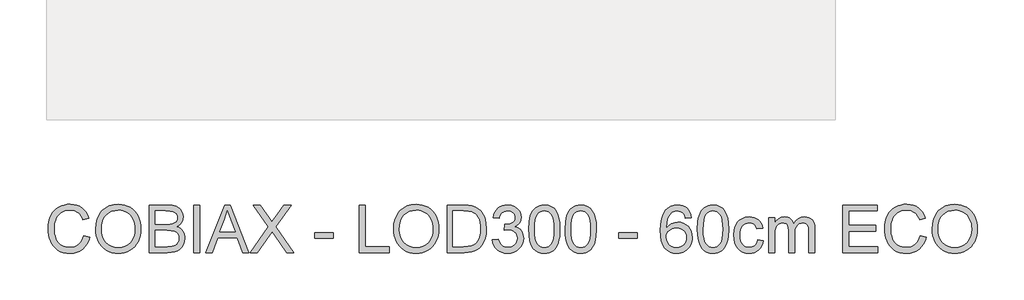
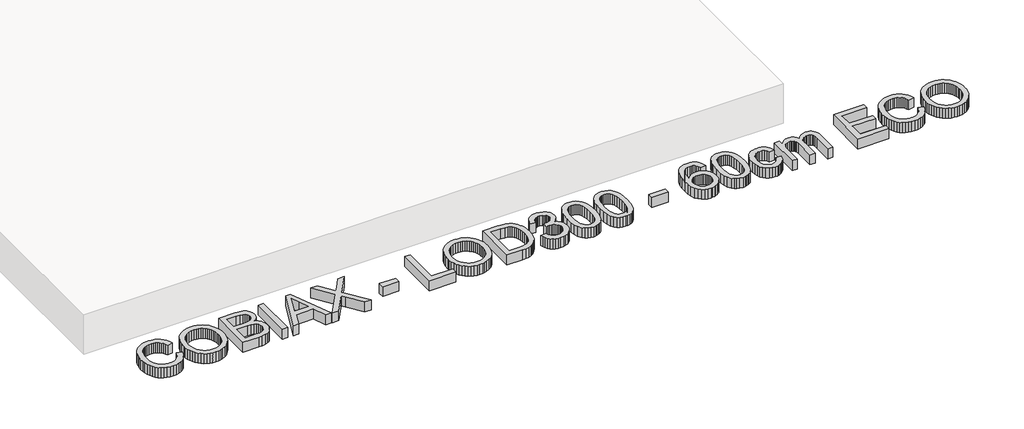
# One storey, part 9 of 18: 1 proxy.
"""IFC4 building model written with IfcOpenShell, lengths in millimetres."""

import ifcopenshell
import ifcopenshell.guid

model = None  # the IFC model being written
_history = None  # IfcOwnerHistory: only IFC2X3 demands one
_inside = {}  # id of a spatial element -> (the spatial element, [elements in it])
_under = {}  # id of a project, library or spatial element -> (it, [spatial elements below it])
_declared = {}  # id of a project -> (the project, [libraries it declares])
_typed = {}  # id of a type object -> (the type object, [elements of that type])
_made_of = {}  # id of a material, layer set ... -> (it, [elements and type objects made of it])


def new_model(schema):
    """Start an empty IFC model of exactly this schema.

    Asked for "IFC4X3", IfcOpenShell would pick the latest addendum, in which some entities
    have other attributes; the version numbers below select the first issue.
    IFC2X3 requires an IfcOwnerHistory on every rooted entity: one is made here for all.
    """
    global model, _history
    if schema == "IFC4X3":
        model = ifcopenshell.file(schema_version=(4, 3, 0, 0))
    else:
        model = ifcopenshell.file(schema=schema)
    _inside.clear()
    _under.clear()
    _declared.clear()
    _typed.clear()
    _made_of.clear()
    _history = None
    if model.schema == "IFC2X3":
        org = make("IfcOrganization", Name="unknown")
        user = make(
            "IfcPersonAndOrganization",
            ThePerson=make("IfcPerson", FamilyName="unknown"),
            TheOrganization=org,
        )
        app = make(
            "IfcApplication",
            ApplicationDeveloper=org,
            Version="unknown",
            ApplicationFullName="unknown",
            ApplicationIdentifier="unknown",
        )
        _history = make(
            "IfcOwnerHistory",
            OwningUser=user,
            OwningApplication=app,
            ChangeAction="ADDED",
            CreationDate=0,
        )
    return model


def make(cls, **values):
    """One entity of the class cls with the attributes given. An attribute that is None is left unset."""
    return model.create_entity(
        cls, **{name: value for name, value in values.items() if value is not None}
    )


def rooted(cls, **values):
    """An entity with a GlobalId (a new one), such as an element, a storey or a relation."""
    return make(cls, GlobalId=ifcopenshell.guid.new(), OwnerHistory=_history, **values)


def si_unit(unit_type, name, prefix=None):
    """IfcSIUnit, for example si_unit("LENGTHUNIT", "METRE", prefix="MILLI")."""
    return make("IfcSIUnit", UnitType=unit_type, Prefix=prefix, Name=name)


def assignment(units):
    """IfcUnitAssignment: the units of a project."""
    return None if units is None else make("IfcUnitAssignment", Units=units)


def point(xyz):
    """IfcCartesianPoint."""
    return None if xyz is None else make("IfcCartesianPoint", Coordinates=xyz)


def direction(xyz):
    """IfcDirection."""
    return None if xyz is None else make("IfcDirection", DirectionRatios=xyz)


def frame(location, z_axis=None, x_axis=None):
    """IfcAxis2Placement3D, a coordinate frame: its origin and axes. An axis left out is left unset."""
    return make(
        "IfcAxis2Placement3D",
        Location=point(location),
        Axis=direction(z_axis),
        RefDirection=direction(x_axis),
    )


def origin():
    """The frame at (0, 0, 0) with its axes left unset."""
    return frame((0.0, 0.0, 0.0))


def origin_with_axes():
    """The frame at (0, 0, 0) with the z axis (0, 0, 1) and the x axis (1, 0, 0) written out."""
    return frame((0.0, 0.0, 0.0), z_axis=(0.0, 0.0, 1.0), x_axis=(1.0, 0.0, 0.0))


def place(relative_to, where):
    """IfcLocalPlacement: puts the frame where relative to a parent placement (None: the world)."""
    return make(
        "IfcLocalPlacement", PlacementRelTo=relative_to, RelativePlacement=where
    )


def context(
    kind, dimensions, precision=None, world=None, true_north=None, identifier=None
):
    """IfcGeometricRepresentationContext, for example the 3D "Model" context."""
    return make(
        "IfcGeometricRepresentationContext",
        ContextIdentifier=identifier,
        ContextType=kind,
        CoordinateSpaceDimension=dimensions,
        Precision=precision,
        WorldCoordinateSystem=world,
        TrueNorth=true_north,
    )


def project(units=None, contexts=None):
    """IfcProject with its units and contexts."""
    return rooted(
        "IfcProject",
        Name="project",
        RepresentationContexts=contexts,
        UnitsInContext=assignment(units),
    )


def spatial(cls, under=None, at=None, **own):
    """A site, building, storey or space (cls), placed at a placement, below another one or the project."""
    s = rooted(cls, ObjectPlacement=at, **own)
    if under is not None:
        _under.setdefault(under.id(), (under, []))[1].append(s)
    return s


def polyline(points):
    """IfcPolyline through the points."""
    return make("IfcPolyline", Points=[point(p) for p in points])


def outline(outer, holes=None, kind="AREA"):
    """IfcArbitraryClosedProfileDef: a profile drawn as a closed curve; with holes, ...WithVoids."""
    if holes is None:
        return make("IfcArbitraryClosedProfileDef", ProfileType=kind, OuterCurve=outer)
    return make(
        "IfcArbitraryProfileDefWithVoids",
        ProfileType=kind,
        OuterCurve=outer,
        InnerCurves=holes,
    )


def extrude(swept, where, along, depth):
    """IfcExtrudedAreaSolid: the profile swept, set in the frame where, extruded along a direction by depth."""
    return make(
        "IfcExtrudedAreaSolid",
        SweptArea=swept,
        Position=where,
        ExtrudedDirection=direction(along),
        Depth=depth,
    )


def shape(context_of_items, identifier, shape_type, items):
    """IfcShapeRepresentation: the items that make up one representation, for example the "Body"."""
    return make(
        "IfcShapeRepresentation",
        ContextOfItems=context_of_items,
        RepresentationIdentifier=identifier,
        RepresentationType=shape_type,
        Items=items,
    )


def made_of(thing, what):
    """Note that an element or type object is made of a material, layer set ...; save() writes the relation."""
    if what is not None:
        _made_of.setdefault(what.id(), (what, []))[1].append(thing)
    return thing


def element(
    cls,
    number,
    at=None,
    inside=None,
    cuts=None,
    type_object=None,
    material=None,
    context=None,
    identifier="Body",
    shape_type=None,
    held_by="IfcProductDefinitionShape",
    body=None,
    shapes=None,
    **own,
):
    """One element of the class cls, such as IfcWall. Its Tag is "e" and its number.

    at: its placement. inside: the storey or other place that contains it. cuts: it is an
    opening in that element (IfcRelVoidsElement). A single representation is given by context,
    identifier, shape_type and body (its items); several are given by shapes. held_by: the class
    of the entity that holds the representations. save() writes the other relations.
    """
    e = rooted(cls, Tag="e%d" % number, ObjectPlacement=at, **own)
    if body is not None:
        shapes = [shape(context, identifier, shape_type, body)]
    if shapes is not None:
        e.Representation = make(held_by, Representations=shapes)
    if inside is not None:
        _inside.setdefault(inside.id(), (inside, []))[1].append(e)
    if cuts is not None:
        rooted(
            "IfcRelVoidsElement", RelatingBuildingElement=cuts, RelatedOpeningElement=e
        )
    if type_object is not None:
        _typed.setdefault(type_object.id(), (type_object, []))[1].append(e)
    return made_of(e, material)


def aggregate(whole, parts):
    """IfcRelAggregates: a whole, such as a stair, and the parts it consists of."""
    return rooted("IfcRelAggregates", RelatingObject=whole, RelatedObjects=parts)


def save(model, path):
    """Write the relations noted so far, then the file.

    IfcRelAggregates (storeys below a building ...), IfcRelContainedInSpatialStructure (elements
    in a storey), IfcRelDefinesByType, IfcRelAssociatesMaterial and IfcRelDeclares: one each for
    every whole, place, type object, material and project.
    """
    for whole, parts in _under.values():
        aggregate(whole, parts)
    for where, things in _inside.values():
        rooted(
            "IfcRelContainedInSpatialStructure",
            RelatedElements=things,
            RelatingStructure=where,
        )
    for kind, things in _typed.values():
        rooted("IfcRelDefinesByType", RelatedObjects=things, RelatingType=kind)
    for what, things in _made_of.values():
        rooted("IfcRelAssociatesMaterial", RelatedObjects=things, RelatingMaterial=what)
    for by, libraries in _declared.values():
        rooted("IfcRelDeclares", RelatingContext=by, RelatedDefinitions=libraries)
    model.write(path)


model = new_model("IFC4")

# Units and contexts
model_context = context("Model", 3, world=origin())
ifc_project = project(units=[si_unit("LENGTHUNIT", "METRE", prefix="MILLI")], contexts=[model_context])

# Site, building, storey
site = spatial("IfcSite", under=ifc_project)
building = spatial("IfcBuilding", under=site)
storey = spatial("IfcBuildingStorey", under=building, Name="COBIAX Slabs", Elevation=0.0)

# Proxy
placement = place(None, origin())
element("IfcBuildingElementProxy", 1, Name="600mm Arial", ObjectType="600mm Arial", at=placement, inside=storey, context=model_context, shape_type="SweptSolid", body=[
    extrude(outline(polyline([(9798.2153953, -62620.9127725), (9873.5576279, -62640.3369419), (9858.64921, -62687.1913125), (9838.7927794, -62728.13198), (9813.9883358, -62763.1589445), (9784.2358795, -62792.2722059), (9750.2067949, -62815.1590645), (9712.5724668, -62831.5068207), (9671.3328952, -62841.3154744), (9626.4880799, -62844.5850256), (9580.5442173, -62842.1110192), (9539.097712, -62834.6889999), (9502.1485641, -62822.3189678), (9469.6967736, -62805.0009229), (9441.2962836, -62782.9923826), (9416.5010371, -62756.5508642), (9395.3110342, -62725.6763677), (9377.7262748, -62690.3688932), (9363.9169044, -62652.155151), (9354.0530684, -62612.5618512), (9348.1347668, -62571.588994), (9346.1619996, -62529.2365793), (9348.3922842, -62483.7939559), (9355.083138, -62441.3495707), (9366.234561, -62401.9034238), (9381.8465531, -62365.4555151), (9401.5696266, -62332.6082514), (9425.0542935, -62303.9640396), (9452.3005538, -62279.5228795), (9483.3084074, -62259.2847713), (9517.0247923, -62243.4152617), (9552.3966461, -62232.0798977), (9589.4239689, -62225.2786793), (9628.1067607, -62223.0116065), (9671.1995379, -62225.9454655), (9710.7146627, -62234.7470422), (9746.6521351, -62249.4163368), (9779.0119551, -62269.9533491), (9807.2606938, -62295.8154534), (9830.8649224, -62326.4600236), (9849.8246407, -62361.8870597), (9864.1398488, -62402.0965618), (9788.7976162, -62420.0492032), (9776.9334219, -62390.420907), (9762.6779946, -62365.1060272), (9746.0313343, -62344.1045638), (9726.993441, -62327.4165168), (9705.4539502, -62314.7015953), (9681.3024972, -62305.6195086), (9654.5390821, -62300.1702565), (9625.1637048, -62298.3538392), (9591.3645465, -62300.3679931), (9560.4532618, -62306.4104549), (9532.4298508, -62316.4812245), (9507.2943135, -62330.5803019), (9485.3639481, -62348.0730908), (9466.9560527, -62368.3249946), (9452.0706275, -62391.3360134), (9440.7076724, -62417.1061472), (9426.3050923, -62472.2516583), (9421.5042322, -62529.0894265), (9427.1880091, -62598.6927), (9434.2927301, -62629.9626696), (9444.2393395, -62658.8781944), (9457.1887858, -62684.8644589), (9473.3020171, -62707.3466473), (9492.5790337, -62726.3247597), (9515.0198354, -62741.7987961), (9539.5345719, -62753.8055448), (9565.0333926, -62762.3817938), (9591.5162978, -62767.5275432), (9618.9832872, -62769.242793), (9651.7385804, -62766.9067423), (9681.8727143, -62759.8985903), (9709.385689, -62748.218337), (9734.2775045, -62731.8659823), (9755.9595496, -62710.9151027), (9773.8432131, -62685.4392745), (9787.928495, -62655.4384978), (9798.2153953, -62620.9127725)])), origin_with_axes(), (0.0, 0.0, 1.0), 150.0),
    extrude(outline(polyline([(9948.8998605, -62541.7445672), (9953.9214497, -62471.0468447), (9968.9862175, -62408.4609203), (9994.0941636, -62353.9867939), (10010.4143286, -62329.7916549), (10029.2452883, -62307.6244654), (10072.3334669, -62270.6063397), (10121.2525753, -62244.1648213), (10176.0026132, -62228.2999102), (10236.5835807, -62223.0116065), (10277.1333737, -62225.49481), (10315.6414215, -62232.9444204), (10352.1077243, -62245.3604378), (10386.532282, -62262.742862), (10417.9494044, -62284.5674614), (10445.3934012, -62310.310004), (10468.8642725, -62339.9704899), (10488.3620182, -62373.548919), (10503.6843033, -62410.2819362), (10514.6287927, -62449.4061864), (10521.1954863, -62490.9216695), (10523.3843842, -62534.8283857), (10521.0805232, -62579.3145159), (10514.1689402, -62621.3910191), (10502.6496352, -62661.0578953), (10486.5226083, -62698.3151443), (10466.1695369, -62732.178682), (10441.9720986, -62761.6644239), (10413.9302936, -62786.7723701), (10382.0441216, -62807.5025205), (10347.5689802, -62823.7261165), (10311.7602665, -62835.3143993), (10274.6179805, -62842.267369), (10236.1421223, -62844.5850256), (10194.8841566, -62842.0236472), (10155.870271, -62834.339512), (10119.1004656, -62821.5326201), (10084.5747403, -62803.6029713), (10053.1944061, -62781.2449431), (10025.8607739, -62755.1529126), (10002.5738436, -62725.3268798), (9983.3336153, -62691.7668448), (9968.2688476, -62655.8201753), (9957.5082992, -62618.8342393), (9951.0519702, -62580.8090365), (9948.8998605, -62541.7445672)]), holes=[polyline([(10024.2420931, -62542.4803312), (10028.0082851, -62592.4295091), (10039.3068608, -62636.7684865), (10058.1378205, -62675.4972636), (10084.5011639, -62708.6158402), (10116.5482842, -62735.140132), (10152.4305743, -62754.0860548), (10192.1480343, -62765.4536084), (10235.700664, -62769.242793), (10279.9982547, -62765.4168202), (10320.1847641, -62753.938902), (10356.2601923, -62734.8090382), (10388.2245392, -62708.027229), (10414.3947446, -62674.2096766), (10433.0877485, -62633.9725834), (10444.3035508, -62587.3159493), (10448.0421516, -62534.2397745), (10446.4418649, -62499.7600345), (10441.6410049, -62467.5427687), (10433.6395715, -62437.5879773), (10422.4375647, -62409.8956601), (10408.1591448, -62384.8291007), (10390.9284718, -62362.7515824), (10370.7455459, -62343.6631054), (10347.6103669, -62327.5636696), (10322.2403048, -62314.7843688), (10295.3527295, -62305.6562968), (10266.9476409, -62300.1794536), (10237.0250391, -62298.3538392), (10194.9853241, -62301.8717107), (10155.9806356, -62312.4253255), (10120.0109735, -62330.0146834), (10087.0763379, -62354.6397844), (10059.5863558, -62387.4870481), (10039.9506543, -62429.7428937), (10028.1692334, -62481.4073214), (10024.2420931, -62542.4803312)])]), origin_with_axes(), (0.0, 0.0, 1.0), 150.0),
    extrude(outline(polyline([(10626.979954, -62835.1672465), (10626.979954, -62232.4293856), (10856.9797774, -62232.4293856), (10920.2370865, -62236.8623637), (10969.6252443, -62250.1612978), (10989.7024042, -62260.2182718), (11007.4803016, -62272.6572818), (11022.9589366, -62287.4783277), (11036.1383091, -62304.6814095), (11054.1829209, -62342.3525258), (11060.1977915, -62381.7894757), (11055.1394141, -62418.0810345), (11039.9642818, -62452.2020895), (11014.56203, -62482.0557135), (10978.8222942, -62505.5449788), (11001.562, -62515.2386694), (11021.5149998, -62527.8386278), (11038.6812934, -62543.3448538), (11053.0608808, -62561.7573477), (11064.423836, -62582.5150893), (11072.5402325, -62605.0570585), (11077.4100704, -62629.3832555), (11079.0333497, -62655.4936801), (11074.6003717, -62697.524198), (11061.3014375, -62736.5012954), (11041.4542039, -62769.6474632), (11017.3763273, -62794.1851923), (10987.8905854, -62811.9538926), (10951.8197558, -62824.7929743), (10907.986616, -62832.5736785), (10855.2139438, -62835.1672465), (10626.979954, -62835.1672465)]), holes=[polyline([(10702.3221866, -62477.2916416), (10839.9100528, -62477.2916416), (10888.0290178, -62475.6729608), (10920.2554806, -62470.8169185), (10948.3800591, -62459.6516999), (10968.5951747, -62442.9314633), (10980.7904629, -62420.9137259), (10984.8555589, -62393.8560051), (10981.0663744, -62367.5892307), (10969.6988207, -62344.7069706), (10951.2679328, -62326.8462997), (10926.2887453, -62315.6442929), (10887.9554414, -62309.7397869), (10829.4622042, -62307.7716182), (10702.3221866, -62307.7716182), (10702.3221866, -62477.2916416)]), polyline([(10702.3221866, -62759.8250139), (10856.8326246, -62759.8250139), (10912.7506879, -62756.8819579), (10938.7047626, -62750.3520525), (10960.0603125, -62740.474421), (10977.4243426, -62726.3293582), (10991.4038584, -62706.9971594), (11000.6193024, -62683.3423471), (11003.6911171, -62656.2294441), (11000.0858735, -62624.7387453), (10989.2701429, -62597.6626304), (10970.3794024, -62576.4910216), (10942.5491295, -62562.7138409), (10903.1305737, -62555.1538659), (10849.4749847, -62552.6338742), (10702.3221866, -62552.6338742), (10702.3221866, -62759.8250139)])]), origin_with_axes(), (0.0, 0.0, 1.0), 150.0),
    extrude(outline(polyline([(11192.0466986, -62835.1672465), (11192.0466986, -62232.4293856), (11267.3889312, -62232.4293856), (11267.3889312, -62835.1672465), (11192.0466986, -62835.1672465)])), origin_with_axes(), (0.0, 0.0, 1.0), 150.0),
    extrude(outline(polyline([(11347.8815118, -62835.1672465), (11588.4763366, -62232.4293856), (11652.6349566, -62232.4293856), (11893.2297814, -62835.1672465), (11813.6201177, -62835.1672465), (11744.6054554, -62646.811665), (11496.358685, -62646.811665), (11427.4911755, -62835.1672465), (11347.8815118, -62835.1672465)]), holes=[polyline([(11524.0234111, -62571.4694324), (11717.0878821, -62571.4694324), (11662.7884996, -62423.2865647), (11620.5556466, -62307.7716182), (11583.0316831, -62410.3371185), (11524.0234111, -62571.4694324)])]), origin_with_axes(), (0.0, 0.0, 1.0), 150.0),
    extrude(outline(polyline([(11907.7979084, -62835.1672465), (12140.1521766, -62506.7222012), (11945.4690247, -62232.4293856), (12035.8208428, -62232.4293856), (12145.4496773, -62386.7926708), (12171.6060872, -62425.8985269), (12182.3850296, -62446.9781652), (12225.6479523, -62385.7626012), (12334.0995644, -62232.4293856), (12425.7757576, -62232.4293856), (12231.0926058, -62507.605118), (12463.4468739, -62835.1672465), (12373.0950559, -62835.1672465), (12218.2903124, -62616.7924942), (12186.0638496, -62571.4694324), (12150.6000252, -62621.2070781), (11999.4741016, -62835.1672465), (11907.7979084, -62835.1672465)])), origin_with_axes(), (0.0, 0.0, 1.0), 150.0),
    extrude(outline(polyline([(12727.1446881, -62656.2294441), (12727.1446881, -62580.8872115), (12962.589165, -62580.8872115), (12962.589165, -62656.2294441), (12727.1446881, -62656.2294441)])), origin_with_axes(), (0.0, 0.0, 1.0), 150.0),
    extrude(outline(polyline([(13292.2114327, -62835.1672465), (13292.2114327, -62232.4293856), (13367.5536653, -62232.4293856), (13367.5536653, -62759.8250139), (13668.9225957, -62759.8250139), (13668.9225957, -62835.1672465), (13292.2114327, -62835.1672465)])), origin_with_axes(), (0.0, 0.0, 1.0), 150.0),
    extrude(outline(polyline([(13725.4292702, -62541.7445672), (13730.4508594, -62471.0468447), (13745.5156271, -62408.4609203), (13770.6235733, -62353.9867939), (13786.9437383, -62329.7916549), (13805.7746979, -62307.6244654), (13848.8628766, -62270.6063397), (13897.7819849, -62244.1648213), (13952.5320229, -62228.2999102), (14013.1129904, -62223.0116065), (14053.6627833, -62225.49481), (14092.1708312, -62232.9444204), (14128.637134, -62245.3604378), (14163.0616917, -62262.742862), (14194.4788141, -62284.5674614), (14221.9228109, -62310.310004), (14245.3936822, -62339.9704899), (14264.8914279, -62373.548919), (14280.213713, -62410.2819362), (14291.1582024, -62449.4061864), (14297.724896, -62490.9216695), (14299.9137939, -62534.8283857), (14297.6099329, -62579.3145159), (14290.6983499, -62621.3910191), (14279.1790449, -62661.0578953), (14263.052018, -62698.3151443), (14242.6989466, -62732.178682), (14218.5015083, -62761.6644239), (14190.4597033, -62786.7723701), (14158.5735313, -62807.5025205), (14124.0983898, -62823.7261165), (14088.2896761, -62835.3143993), (14051.1473902, -62842.267369), (14012.671532, -62844.5850256), (13971.4135663, -62842.0236472), (13932.3996807, -62834.339512), (13895.6298753, -62821.5326201), (13861.10415, -62803.6029713), (13829.7238158, -62781.2449431), (13802.3901836, -62755.1529126), (13779.1032533, -62725.3268798), (13759.8630249, -62691.7668448), (13744.7982572, -62655.8201753), (13734.0377089, -62618.8342393), (13727.5813799, -62580.8090365), (13725.4292702, -62541.7445672)]), holes=[polyline([(13800.7715028, -62542.4803312), (13804.5376947, -62592.4295091), (13815.8362705, -62636.7684865), (13834.6672301, -62675.4972636), (13861.0305736, -62708.6158402), (13893.0776939, -62735.140132), (13928.959984, -62754.0860548), (13968.6774439, -62765.4536084), (14012.2300736, -62769.242793), (14056.5276644, -62765.4168202), (14096.7141738, -62753.938902), (14132.789602, -62734.8090382), (14164.7539488, -62708.027229), (14190.9241543, -62674.2096766), (14209.6171582, -62633.9725834), (14220.8329605, -62587.3159493), (14224.5715613, -62534.2397745), (14222.9712746, -62499.7600345), (14218.1704145, -62467.5427687), (14210.1689811, -62437.5879773), (14198.9669744, -62409.8956601), (14184.6885545, -62384.8291007), (14167.4578815, -62362.7515824), (14147.2749555, -62343.6631054), (14124.1397766, -62327.5636696), (14098.7697145, -62314.7843688), (14071.8821392, -62305.6562968), (14043.4770506, -62300.1794536), (14013.5544488, -62298.3538392), (13971.5147338, -62301.8717107), (13932.5100453, -62312.4253255), (13896.5403832, -62330.0146834), (13863.6057476, -62354.6397844), (13836.1157655, -62387.4870481), (13816.480064, -62429.7428937), (13804.6986431, -62481.4073214), (13800.7715028, -62542.4803312)])]), origin_with_axes(), (0.0, 0.0, 1.0), 150.0),
    extrude(outline(polyline([(14403.5093637, -62835.1672465), (14403.5093637, -62232.4293856), (14611.4362674, -62232.4293856), (14673.5715364, -62234.5998894), (14719.0049628, -62241.1114007), (14767.0503513, -62257.8500315), (14807.5909472, -62284.2271705), (14829.9305814, -62305.7850555), (14849.2719773, -62330.1388435), (14865.6151349, -62357.2885348), (14878.9600543, -62387.2341292), (14889.3251295, -62419.6997153), (14896.7287546, -62454.4093815), (14902.6516548, -62530.5609545), (14898.641741, -62595.2530034), (14886.6119998, -62652.1827421), (14868.2914764, -62700.651195), (14845.4092163, -62739.9593862), (14819.0688655, -62770.9902325), (14790.3740698, -62794.6266507), (14757.4302372, -62812.1562277), (14718.3427752, -62824.8665507), (14673.0381075, -62832.5920726), (14621.4426577, -62835.1672465), (14403.5093637, -62835.1672465)]), holes=[polyline([(14478.8515963, -62759.8250139), (14612.1720314, -62759.8250139), (14667.3175425, -62757.1026871), (14709.1457253, -62748.9357069), (14740.7100005, -62735.8023196), (14765.0637886, -62718.1807721), (14791.2385925, -62685.5680332), (14810.9018852, -62643.3535742), (14823.2075379, -62591.3534542), (14827.3094222, -62529.3837321), (14825.2998668, -62485.6425629), (14819.2712006, -62447.2724708), (14809.2234236, -62414.2734558), (14795.1565358, -62386.645518), (14778.2109714, -62363.7632579), (14759.5271645, -62345.0012761), (14739.1051153, -62330.3595727), (14716.9448236, -62319.8381477), (14673.6083246, -62310.7882506), (14610.1118922, -62307.7716182), (14478.8515963, -62307.7716182), (14478.8515963, -62759.8250139)])]), origin_with_axes(), (0.0, 0.0, 1.0), 150.0),
    extrude(outline(polyline([(14977.9938874, -62675.0650022), (15053.33612, -62665.6472231), (15070.2035095, -62712.9936359), (15081.5756616, -62730.900292), (15094.9067854, -62744.9625813), (15110.5003835, -62755.5851739), (15128.6599585, -62763.1727401), (15149.3855104, -62767.7252798), (15172.6770392, -62769.242793), (15199.9738833, -62767.1550627), (15224.3276713, -62760.8918717), (15245.7384035, -62750.4532201), (15264.2060796, -62735.8391078), (15279.0777093, -62718.1439839), (15289.7003019, -62698.4622971), (15296.0738575, -62676.7940476), (15298.198376, -62653.1392353), (15296.0922516, -62630.6110616), (15289.7738783, -62610.115436), (15279.2432562, -62591.6523583), (15264.5003852, -62575.2218287), (15246.5109557, -62561.7343551), (15226.2406577, -62552.1004453), (15203.6894914, -62546.3200995), (15178.8574567, -62544.3933175), (15155.0554917, -62546.4534567), (15126.0296022, -62552.6338742), (15134.4173117, -62477.2916416), (15146.4838412, -62478.1745584), (15191.622962, -62472.7666931), (15231.9796168, -62456.5430971), (15248.5894889, -62444.2742325), (15260.4536833, -62429.0991002), (15267.5721999, -62411.0177002), (15269.9450388, -62390.0300324), (15268.2251904, -62372.9924975), (15263.0656454, -62357.4908699), (15254.4664038, -62343.5251496), (15242.4274655, -62331.0953367), (15227.6753975, -62320.8912099), (15210.9367667, -62313.6025479), (15171.4998168, -62307.7716182), (15150.8432428, -62309.2431462), (15131.9892906, -62313.6577302), (15114.9379601, -62321.0153701), (15099.6892514, -62331.3160659), (15086.6202435, -62344.5598178), (15076.1080155, -62360.7466255), (15068.1525673, -62379.8764893), (15062.7538991, -62401.949409), (14987.4116665, -62392.5316299), (14996.3420019, -62356.5619678), (15009.5949508, -62324.878131), (15027.1705131, -62297.4801194), (15049.0686888, -62274.3679331), (15074.5996993, -62256.0198186), (15103.0737657, -62242.9140225), (15134.4908881, -62235.0505448), (15168.8510665, -62232.4293856), (15216.2158734, -62237.5981277), (15259.7179193, -62253.1043538), (15296.3957542, -62277.5685064), (15323.2879281, -62309.6110282), (15339.7874355, -62346.5279864), (15345.2872714, -62385.6154484), (15340.063347, -62422.0357659), (15324.391574, -62455.0715691), (15298.4926816, -62483.2145417), (15262.5873988, -62504.9563677), (15287.695345, -62512.8106482), (15309.7498706, -62524.012655), (15328.7509757, -62538.5623879), (15344.6986602, -62556.459847), (15357.3170126, -62577.2635738), (15366.3301215, -62600.53211), (15371.7379868, -62626.2654556), (15373.5406086, -62654.4636105), (15369.935365, -62692.6865498), (15359.1196344, -62727.8928567), (15341.0934166, -62760.0825313), (15315.8567117, -62789.2555735), (15285.110974, -62813.4622088), (15250.5576576, -62830.7526626), (15212.1967626, -62841.1269348), (15170.0282889, -62844.5850256), (15131.9157142, -62841.6327726), (15097.1876538, -62832.7760136), (15065.8441078, -62818.0147485), (15037.8850762, -62797.3489774), (15014.4417961, -62771.9927109), (14996.6455045, -62743.1599595), (14984.4962016, -62710.8507233), (14977.9938874, -62675.0650022)])), origin_with_axes(), (0.0, 0.0, 1.0), 150.0),
    extrude(outline(polyline([(15439.4650621, -62538.6543584), (15445.0016862, -62442.1773052), (15451.9224662, -62401.2642288), (15461.6115582, -62365.2347859), (15474.0275756, -62333.7946709), (15489.1291315, -62306.6495782), (15506.9162259, -62283.7995077), (15527.388859, -62265.2444596), (15550.6160084, -62250.8878647), (15576.6666522, -62240.6331541), (15605.5407903, -62234.4803277), (15637.2384227, -62232.4293856), (15683.6651305, -62237.285428), (15725.235796, -62251.853555), (15760.0006445, -62275.5635496), (15786.0099016, -62307.8451946), (15805.6548001, -62348.4225787), (15821.3265731, -62397.0197903), (15831.5904808, -62458.731995), (15835.0117833, -62538.6543584), (15829.5303416, -62634.5795887), (15822.6785395, -62675.3547093), (15813.0860164, -62711.3381669), (15800.7665681, -62742.7920775), (15785.7339901, -62769.978557), (15767.9882823, -62792.8976053), (15747.5294449, -62811.5492224), (15724.2747043, -62826.0023863), (15698.141287, -62836.3260748), (15669.1291932, -62842.5202879), (15637.2384227, -62844.5850256), (15595.7413337, -62840.9981761), (15558.9531342, -62830.2376278), (15526.8738242, -62812.3033805), (15499.5034037, -62787.1954344), (15473.2366293, -62741.8079932), (15454.4746475, -62685.2553335), (15443.2174585, -62617.5374552), (15439.4650621, -62538.6543584)]), holes=[polyline([(15514.8072947, -62538.5072056), (15517.0145867, -62604.0039963), (15523.6364626, -62657.0203904), (15534.6729225, -62697.5563877), (15550.1239663, -62725.6119884), (15568.8123716, -62744.7004654), (15589.5609162, -62758.3350918), (15612.3695999, -62766.5158677), (15637.2384227, -62769.242793), (15662.1072456, -62766.5066706), (15684.9159293, -62758.2983036), (15705.6644738, -62744.6176919), (15724.3528792, -62725.4648356), (15739.803923, -62697.3632497), (15750.8403828, -62656.8364494), (15757.4622588, -62603.8844347), (15759.6695507, -62538.5072056), (15757.5358352, -62474.7440588), (15751.1346884, -62422.6611653), (15740.4661106, -62382.2585252), (15725.5301016, -62353.5361384), (15707.1543959, -62333.5141608), (15686.1667281, -62319.2127483), (15662.5670981, -62310.6319007), (15636.3555059, -62307.7716182), (15611.6154418, -62310.2916099), (15589.1930342, -62317.8515849), (15569.0882831, -62330.4515432), (15551.3011887, -62348.0914849), (15535.3351101, -62379.3614545), (15523.9307682, -62421.5207311), (15517.0881631, -62474.5693149), (15514.8072947, -62538.5072056)])]), origin_with_axes(), (0.0, 0.0, 1.0), 150.0),
    extrude(outline(polyline([(15900.9362369, -62538.6543584), (15906.4728609, -62442.1773052), (15913.3936409, -62401.2642288), (15923.082733, -62365.2347859), (15935.4987503, -62333.7946709), (15950.6003062, -62306.6495782), (15968.3874007, -62283.7995077), (15988.8600337, -62265.2444596), (16012.0871832, -62250.8878647), (16038.137827, -62240.6331541), (16067.0119651, -62234.4803277), (16098.7095975, -62232.4293856), (16145.1363053, -62237.285428), (16186.7069707, -62251.853555), (16221.4718193, -62275.5635496), (16247.4810763, -62307.8451946), (16267.1259749, -62348.4225787), (16282.7977479, -62397.0197903), (16293.0616555, -62458.731995), (16296.4829581, -62538.6543584), (16291.0015164, -62634.5795887), (16284.1497142, -62675.3547093), (16274.5571912, -62711.3381669), (16262.2377429, -62742.7920775), (16247.2051648, -62769.978557), (16229.4594571, -62792.8976053), (16209.0006196, -62811.5492224), (16185.745879, -62826.0023863), (16159.6124618, -62836.3260748), (16130.6003679, -62842.5202879), (16098.7095975, -62844.5850256), (16057.2125084, -62840.9981761), (16020.4243089, -62830.2376278), (15988.3449989, -62812.3033805), (15960.9745785, -62787.1954344), (15934.707804, -62741.8079932), (15915.9458223, -62685.2553335), (15904.6886332, -62617.5374552), (15900.9362369, -62538.6543584)]), holes=[polyline([(15976.2784695, -62538.5072056), (15978.4857615, -62604.0039963), (15985.1076374, -62657.0203904), (15996.1440972, -62697.5563877), (16011.595141, -62725.6119884), (16030.2835464, -62744.7004654), (16051.0320909, -62758.3350918), (16073.8407746, -62766.5158677), (16098.7095975, -62769.242793), (16123.5784204, -62766.5066706), (16146.3871041, -62758.2983036), (16167.1356486, -62744.6176919), (16185.8240539, -62725.4648356), (16201.2750977, -62697.3632497), (16212.3115576, -62656.8364494), (16218.9334335, -62603.8844347), (16221.1407255, -62538.5072056), (16219.0070099, -62474.7440588), (16212.6058632, -62422.6611653), (16201.9372853, -62382.2585252), (16187.0012763, -62353.5361384), (16168.6255707, -62333.5141608), (16147.6379028, -62319.2127483), (16124.0382729, -62310.6319007), (16097.8266807, -62307.7716182), (16073.0866165, -62310.2916099), (16050.6642089, -62317.8515849), (16030.5594579, -62330.4515432), (16012.7723634, -62348.0914849), (15996.8062848, -62379.3614545), (15985.401943, -62421.5207311), (15978.5593379, -62474.5693149), (15976.2784695, -62538.5072056)])]), origin_with_axes(), (0.0, 0.0, 1.0), 150.0),
    extrude(outline(polyline([(16579.0163304, -62656.2294441), (16579.0163304, -62580.8872115), (16814.4608073, -62580.8872115), (16814.4608073, -62656.2294441), (16579.0163304, -62656.2294441)])), origin_with_axes(), (0.0, 0.0, 1.0), 150.0),
    extrude(outline(polyline([(17501.9586799, -62392.5316299), (17426.6164473, -62401.949409), (17414.4763414, -62364.6093865), (17398.0688045, -62339.1151642), (17381.8727996, -62325.4023629), (17363.8925671, -62315.6075047), (17344.1281069, -62309.7305899), (17322.579419, -62307.7716182), (17287.5570531, -62312.333355), (17254.5948263, -62326.0185652), (17226.2863068, -62354.8421195), (17203.1649234, -62394.5181927), (17194.1288219, -62419.8238754), (17187.5483327, -62450.6385911), (17181.7541913, -62528.7951209), (17211.9756972, -62493.5336317), (17248.1936796, -62468.6832029), (17288.3847876, -62453.949529), (17330.5256701, -62449.0383044), (17366.7252585, -62452.3952276), (17400.1289436, -62462.4659972), (17430.7367256, -62479.2506132), (17458.5486045, -62502.7490757), (17481.6607908, -62531.563433), (17498.1694953, -62564.2957335), (17508.0747181, -62600.9459772), (17511.376459, -62641.5141643), (17509.8221575, -62668.9811537), (17505.1592532, -62695.4640589), (17497.3877461, -62720.9628796), (17486.5076361, -62745.4776161), (17472.9051993, -62768.0931618), (17456.9667119, -62787.8944101), (17438.6921738, -62804.8813613), (17418.081585, -62819.0540151), (17395.5764039, -62830.2238322), (17371.618089, -62838.202273), (17346.2066402, -62842.9893374), (17319.3420575, -62844.5850256), (17274.4282644, -62840.3543827), (17233.8646759, -62827.6624538), (17197.651292, -62806.5092391), (17165.7881127, -62776.8947385), (17139.8110453, -62737.5681532), (17121.2559972, -62687.2786845), (17110.1229683, -62626.0263323), (17106.4119587, -62553.8110966), (17110.532237, -62472.8494665), (17122.8930721, -62403.7520308), (17143.4944638, -62346.5187894), (17156.8853684, -62322.3512416), (17172.3364122, -62301.1497423), (17203.5971847, -62271.0845863), (17239.8427583, -62249.6094748), (17281.0731329, -62236.7244079), (17327.2883086, -62232.4293856), (17361.9887778, -62235.087333), (17393.3967031, -62243.0611753), (17421.5120846, -62256.3509124), (17446.3349222, -62274.9565443), (17467.1938313, -62298.2526716), (17483.4174273, -62325.613895), (17495.0057102, -62357.0402144), (17501.9586799, -62392.5316299)]), holes=[polyline([(17181.7541913, -62640.3369419), (17186.1135929, -62673.7222329), (17199.1917979, -62705.5992078), (17219.498884, -62733.0064165), (17245.5449292, -62752.9824088), (17276.9804457, -62765.1776969), (17313.4559456, -62769.242793), (17339.6445451, -62767.1366686), (17363.1751972, -62760.8182953), (17384.0479019, -62750.2876732), (17402.2626592, -62735.5448022), (17417.0377198, -62717.1874907), (17427.5913346, -62695.8135467), (17433.9235034, -62671.4229705), (17436.0342264, -62644.0157618), (17433.9510946, -62617.6800095), (17427.7016992, -62594.2965102), (17417.2860402, -62573.8652639), (17402.7041176, -62556.3862706), (17384.434178, -62542.3837621), (17362.954468, -62532.3819704), (17338.2649876, -62526.3808953), (17310.3657368, -62524.380537), (17284.5266252, -62526.3808953), (17260.7200616, -62532.3819704), (17238.946046, -62542.3837621), (17219.2045784, -62556.3862706), (17202.820034, -62573.6353376), (17191.1167881, -62593.3768052), (17184.0948405, -62615.6106733), (17181.7541913, -62640.3369419)])]), origin_with_axes(), (0.0, 0.0, 1.0), 150.0),
    extrude(outline(polyline([(17577.3009125, -62538.6543584), (17582.8375365, -62442.1773052), (17589.7583166, -62401.2642288), (17599.4474086, -62365.2347859), (17611.8634259, -62333.7946709), (17626.9649818, -62306.6495782), (17644.7520763, -62283.7995077), (17665.2247093, -62265.2444596), (17688.4518588, -62250.8878647), (17714.5025026, -62240.6331541), (17743.3766407, -62234.4803277), (17775.0742731, -62232.4293856), (17821.5009809, -62237.285428), (17863.0716464, -62251.853555), (17897.8364949, -62275.5635496), (17923.845752, -62307.8451946), (17943.4906505, -62348.4225787), (17959.1624235, -62397.0197903), (17969.4263312, -62458.731995), (17972.8476337, -62538.6543584), (17967.366192, -62634.5795887), (17960.5143898, -62675.3547093), (17950.9218668, -62711.3381669), (17938.6024185, -62742.7920775), (17923.5698405, -62769.978557), (17905.8241327, -62792.8976053), (17885.3652953, -62811.5492224), (17862.1105546, -62826.0023863), (17835.9771374, -62836.3260748), (17806.9650436, -62842.5202879), (17775.0742731, -62844.5850256), (17733.5771841, -62840.9981761), (17696.7889845, -62830.2376278), (17664.7096746, -62812.3033805), (17637.3392541, -62787.1954344), (17611.0724797, -62741.8079932), (17592.3104979, -62685.2553335), (17581.0533089, -62617.5374552), (17577.3009125, -62538.6543584)]), holes=[polyline([(17652.6431451, -62538.5072056), (17654.8504371, -62604.0039963), (17661.472313, -62657.0203904), (17672.5087729, -62697.5563877), (17687.9598166, -62725.6119884), (17706.648222, -62744.7004654), (17727.3967665, -62758.3350918), (17750.2054502, -62766.5158677), (17775.0742731, -62769.242793), (17799.943096, -62766.5066706), (17822.7517797, -62758.2983036), (17843.5003242, -62744.6176919), (17862.1887296, -62725.4648356), (17877.6397734, -62697.3632497), (17888.6762332, -62656.8364494), (17895.2981091, -62603.8844347), (17897.5054011, -62538.5072056), (17895.3716855, -62474.7440588), (17888.9705388, -62422.6611653), (17878.301961, -62382.2585252), (17863.3659519, -62353.5361384), (17844.9902463, -62333.5141608), (17824.0025785, -62319.2127483), (17800.4029485, -62310.6319007), (17774.1913563, -62307.7716182), (17749.4512921, -62310.2916099), (17727.0288845, -62317.8515849), (17706.9241335, -62330.4515432), (17689.137039, -62348.0914849), (17673.1709604, -62379.3614545), (17661.7666186, -62421.5207311), (17654.9240135, -62474.5693149), (17652.6431451, -62538.5072056)])]), origin_with_axes(), (0.0, 0.0, 1.0), 150.0),
    extrude(outline(polyline([(18340.1410177, -62675.0650022), (18415.4832503, -62684.4827813), (18407.2886789, -62720.0339776), (18394.4771884, -62751.4924867), (18377.0487789, -62778.8583086), (18355.0034503, -62802.1314434), (18329.2701047, -62820.7048856), (18300.7776442, -62833.97163), (18269.5260687, -62841.9316767), (18235.5153783, -62844.5850256), (18193.2595326, -62840.883213), (18155.3722856, -62829.7777753), (18121.8536373, -62811.2687124), (18092.7035877, -62785.3560244), (18069.1085563, -62752.5271548), (18052.2549624, -62713.2695474), (18042.142806, -62667.5832021), (18038.7720873, -62615.468119), (18044.5294405, -62548.4216254), (18051.726132, -62518.2507033), (18061.8015001, -62490.3146642), (18074.8245228, -62465.1745284), (18090.8641778, -62443.3913158), (18109.9204651, -62424.9650263), (18131.9933848, -62409.8956601), (18156.085057, -62398.1786186), (18181.1976017, -62389.8093032), (18207.3310189, -62384.7877139), (18234.4853087, -62383.1138508), (18267.9119865, -62385.4131133), (18298.1472879, -62392.3109007), (18325.1912131, -62403.8072131), (18349.043762, -62419.9020504), (18369.3002643, -62440.2275306), (18385.55605, -62464.4157718), (18397.811119, -62492.4667739), (18406.0654712, -62524.380537), (18330.7232386, -62533.7983161), (18317.0564225, -62500.9280598), (18295.7744491, -62477.365218), (18268.0545407, -62463.1833671), (18235.0739199, -62458.4560835), (18209.4739315, -62460.7829371), (18186.3847378, -62467.7634979), (18165.8063387, -62479.397766), (18147.7387342, -62495.6857414), (18133.0280529, -62517.004503), (18122.5204235, -62543.7311299), (18116.2158458, -62575.8656222), (18114.1143199, -62613.4079798), (18116.1698605, -62651.515956), (18122.3364825, -62684.0229288), (18132.6141857, -62710.9288982), (18147.0029702, -62732.2338643), (18164.7118898, -62748.4252706), (18184.949998, -62759.9905608), (18207.717295, -62766.9297349), (18233.0137807, -62769.242793), (18272.0276663, -62763.4670457), (18288.8996543, -62756.2473615), (18304.0150058, -62746.1398037), (18316.9506564, -62733.0340076), (18327.283542, -62716.8196087), (18335.0136624, -62697.4966069), (18340.1410177, -62675.0650022)])), origin_with_axes(), (0.0, 0.0, 1.0), 150.0),
    extrude(outline(polyline([(18481.4077038, -62835.1672465), (18481.4077038, -62392.5316299), (18556.7499365, -62392.5316299), (18556.7499365, -62465.372265), (18579.4114674, -62431.9133975), (18608.5477214, -62405.7018054), (18643.1654171, -62388.7608395), (18682.2712732, -62383.1138508), (18724.1730325, -62388.8712041), (18742.0061122, -62396.0678956), (18757.7606586, -62406.1432637), (18782.8502107, -62433.7895957), (18799.2577477, -62470.6697657), (18826.7201386, -62432.364053), (18858.0452905, -62405.0028296), (18893.2332033, -62388.5860955), (18932.2838771, -62383.1138508), (18962.4456022, -62385.3901207), (18988.9193103, -62392.2189302), (19011.7050014, -62403.6002795), (19030.8026754, -62419.5341684), (19045.8996328, -62440.204538), (19056.6831738, -62465.7953293), (19063.1532984, -62496.3065422), (19065.3100066, -62531.7381769), (19065.3100066, -62835.1672465), (18989.967774, -62835.1672465), (18989.967774, -62564.1117925), (18988.2203345, -62526.5326467), (18982.9780161, -62501.2039713), (18973.1555668, -62483.8583352), (18957.6677348, -62470.2283073), (18937.7469248, -62461.3991394), (18914.6255414, -62458.4560835), (18893.2745901, -62460.3414787), (18873.809034, -62465.9976644), (18856.2288732, -62475.4246405), (18840.5341075, -62488.6224071), (18827.626048, -62505.9772402), (18818.4060055, -62527.875416), (18812.87398, -62554.3169344), (18811.0299715, -62585.3017954), (18811.0299715, -62835.1672465), (18735.6877389, -62835.1672465), (18735.6877389, -62555.724083), (18731.3283373, -62513.1233479), (18725.8790852, -62496.4031113), (18718.2501323, -62482.7362951), (18708.137976, -62472.1137025), (18695.2391135, -62464.5261364), (18679.553545, -62459.9735967), (18661.0812703, -62458.4560835), (18632.0553809, -62462.5027854), (18605.3103598, -62474.6428912), (18583.2374401, -62494.5820954), (18568.2278547, -62522.0260922), (18559.619416, -62560.1018787), (18556.7499365, -62611.9364518), (18556.7499365, -62835.1672465), (18481.4077038, -62835.1672465)])), origin_with_axes(), (0.0, 0.0, 1.0), 150.0),
    extrude(outline(polyline([(19423.1856115, -62835.1672465), (19423.1856115, -62232.4293856), (19856.403449, -62232.4293856), (19856.403449, -62307.7716182), (19498.5278441, -62307.7716182), (19498.5278441, -62486.7094207), (19837.5678909, -62486.7094207), (19837.5678909, -62562.0516533), (19498.5278441, -62562.0516533), (19498.5278441, -62759.8250139), (19865.8212281, -62759.8250139), (19865.8212281, -62835.1672465), (19423.1856115, -62835.1672465)])), origin_with_axes(), (0.0, 0.0, 1.0), 150.0),
    extrude(outline(polyline([(20402.6346355, -62620.9127725), (20477.9768681, -62640.3369419), (20463.0684502, -62687.1913125), (20443.2120195, -62728.13198), (20418.407576, -62763.1589445), (20388.6551196, -62792.2722059), (20354.6260351, -62815.1590645), (20316.991707, -62831.5068207), (20275.7521353, -62841.3154744), (20230.9073201, -62844.5850256), (20184.9634574, -62842.1110192), (20143.5169522, -62834.6889999), (20106.5678043, -62822.3189678), (20074.1160138, -62805.0009229), (20045.7155237, -62782.9923826), (20020.9202773, -62756.5508642), (19999.7302743, -62725.6763677), (19982.145515, -62690.3688932), (19968.3361446, -62652.155151), (19958.4723086, -62612.5618512), (19952.554007, -62571.588994), (19950.5812398, -62529.2365793), (19952.8115244, -62483.7939559), (19959.5023782, -62441.3495707), (19970.6538011, -62401.9034238), (19986.2657933, -62365.4555151), (20005.9888668, -62332.6082514), (20029.4735337, -62303.9640396), (20056.7197939, -62279.5228795), (20087.7276476, -62259.2847713), (20121.4440324, -62243.4152617), (20156.8158863, -62232.0798977), (20193.8432091, -62225.2786793), (20232.5260009, -62223.0116065), (20275.6187781, -62225.9454655), (20315.1339029, -62234.7470422), (20351.0713753, -62249.4163368), (20383.4311953, -62269.9533491), (20411.679934, -62295.8154534), (20435.2841625, -62326.4600236), (20454.2438809, -62361.8870597), (20468.559089, -62402.0965618), (20393.2168564, -62420.0492032), (20381.352662, -62390.420907), (20367.0972347, -62365.1060272), (20350.4505744, -62344.1045638), (20331.4126812, -62327.4165168), (20309.8731904, -62314.7015953), (20285.7217374, -62305.6195086), (20258.9583222, -62300.1702565), (20229.5829449, -62298.3538392), (20195.7837866, -62300.3679931), (20164.872502, -62306.4104549), (20136.849091, -62316.4812245), (20111.7135537, -62330.5803019), (20089.7831882, -62348.0730908), (20071.3752929, -62368.3249946), (20056.4898677, -62391.3360134), (20045.1269125, -62417.1061472), (20030.7243324, -62472.2516583), (20025.9234724, -62529.0894265), (20031.6072492, -62598.6927), (20038.7119703, -62629.9626696), (20048.6585797, -62658.8781944), (20061.6080259, -62684.8644589), (20077.7212573, -62707.3466473), (20096.9982739, -62726.3247597), (20119.4390756, -62741.7987961), (20143.953812, -62753.8055448), (20169.4526328, -62762.3817938), (20195.9355379, -62767.5275432), (20223.4025274, -62769.242793), (20256.1578206, -62766.9067423), (20286.2919545, -62759.8985903), (20313.8049292, -62748.218337), (20338.6967447, -62731.8659823), (20360.3787898, -62710.9151027), (20378.2624533, -62685.4392745), (20392.3477352, -62655.4384978), (20402.6346355, -62620.9127725)])), origin_with_axes(), (0.0, 0.0, 1.0), 150.0),
    extrude(outline(polyline([(20553.3191007, -62541.7445672), (20558.3406899, -62471.0468447), (20573.4054576, -62408.4609203), (20598.5134038, -62353.9867939), (20614.8335688, -62329.7916549), (20633.6645284, -62307.6244654), (20676.7527071, -62270.6063397), (20725.6718154, -62244.1648213), (20780.4218534, -62228.2999102), (20841.0028209, -62223.0116065), (20881.5526138, -62225.49481), (20920.0606617, -62232.9444204), (20956.5269644, -62245.3604378), (20990.9515221, -62262.742862), (21022.3686445, -62284.5674614), (21049.8126414, -62310.310004), (21073.2835127, -62339.9704899), (21092.7812584, -62373.548919), (21108.1035435, -62410.2819362), (21119.0480329, -62449.4061864), (21125.6147265, -62490.9216695), (21127.8036244, -62534.8283857), (21125.4997634, -62579.3145159), (21118.5881804, -62621.3910191), (21107.0688754, -62661.0578953), (21090.9418484, -62698.3151443), (21070.5887771, -62732.178682), (21046.3913388, -62761.6644239), (21018.3495337, -62786.7723701), (20986.4633618, -62807.5025205), (20951.9882203, -62823.7261165), (20916.1795066, -62835.3143993), (20879.0372207, -62842.267369), (20840.5613625, -62844.5850256), (20799.3033968, -62842.0236472), (20760.2895112, -62834.339512), (20723.5197058, -62821.5326201), (20688.9939805, -62803.6029713), (20657.6136463, -62781.2449431), (20630.2800141, -62755.1529126), (20606.9930838, -62725.3268798), (20587.7528554, -62691.7668448), (20572.6880877, -62655.8201753), (20561.9275394, -62618.8342393), (20555.4712104, -62580.8090365), (20553.3191007, -62541.7445672)]), holes=[polyline([(20628.6613333, -62542.4803312), (20632.4275252, -62592.4295091), (20643.726101, -62636.7684865), (20662.5570606, -62675.4972636), (20688.9204041, -62708.6158402), (20720.9675244, -62735.140132), (20756.8498145, -62754.0860548), (20796.5672744, -62765.4536084), (20840.1199041, -62769.242793), (20884.4174949, -62765.4168202), (20924.6040043, -62753.938902), (20960.6794325, -62734.8090382), (20992.6437793, -62708.027229), (21018.8139848, -62674.2096766), (21037.5069886, -62633.9725834), (21048.722791, -62587.3159493), (21052.4613917, -62534.2397745), (21050.8611051, -62499.7600345), (21046.060245, -62467.5427687), (21038.0588116, -62437.5879773), (21026.8568049, -62409.8956601), (21012.5783849, -62384.8291007), (20995.347712, -62362.7515824), (20975.164786, -62343.6631054), (20952.0296071, -62327.5636696), (20926.659545, -62314.7843688), (20899.7719696, -62305.6562968), (20871.3668811, -62300.1794536), (20841.4442793, -62298.3538392), (20799.4045643, -62301.8717107), (20760.3998758, -62312.4253255), (20724.4302137, -62330.0146834), (20691.4955781, -62354.6397844), (20664.005596, -62387.4870481), (20644.3698945, -62429.7428937), (20632.5884736, -62481.4073214), (20628.6613333, -62542.4803312)])]), origin_with_axes(), (0.0, 0.0, 1.0), 150.0),
])

save(model, "model.ifc")
